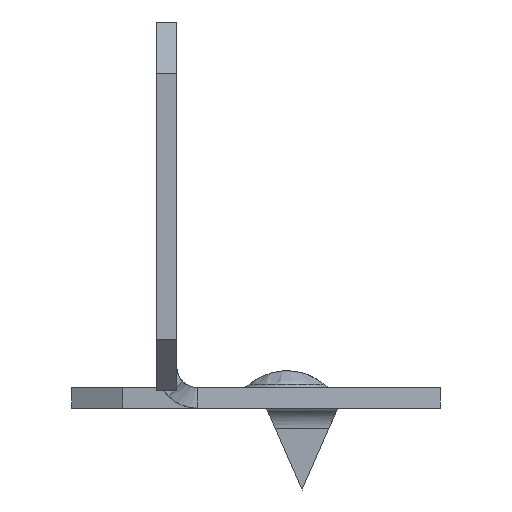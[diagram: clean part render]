
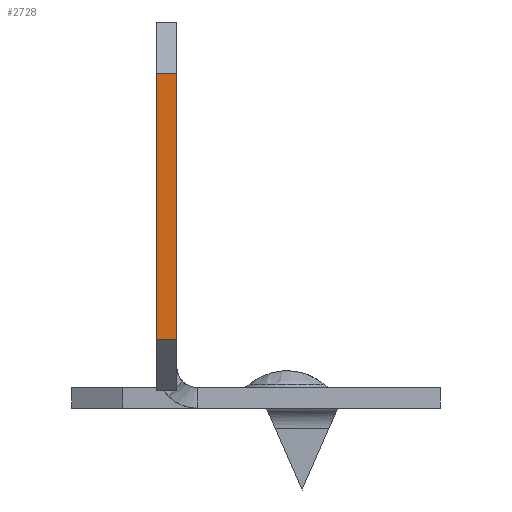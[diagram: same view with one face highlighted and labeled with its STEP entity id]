
A CAD part, front view. The second image highlights one B-rep face of the part: STEP entity #2728.
In plain terms, the highlighted planar face has unit normal (0, -1, 0).
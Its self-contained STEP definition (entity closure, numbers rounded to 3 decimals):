
#2 = PLANE ( 'NONE',  #575 ) ;
#60 = CARTESIAN_POINT ( 'NONE',  ( -7.738, -85., 17.869 ) ) ;
#135 = VECTOR ( 'NONE', #2037, 1000. ) ;
#137 = VERTEX_POINT ( 'NONE', #60 ) ;
#415 = CARTESIAN_POINT ( 'NONE',  ( -7.738, -85., -16.656 ) ) ;
#423 = CARTESIAN_POINT ( 'NONE',  ( -9.738, -85., -8.131 ) ) ;
#499 = CARTESIAN_POINT ( 'NONE',  ( -9.738, -85., -8.131 ) ) ;
#575 = AXIS2_PLACEMENT_3D ( 'NONE', #1599, #2935, #1102 ) ;
#672 = CARTESIAN_POINT ( 'NONE',  ( -9.738, -85., -13.131 ) ) ;
#997 = EDGE_CURVE ( 'NONE', #137, #1461, #2375, .T. ) ;
#1102 = DIRECTION ( 'NONE',  ( 0., 0., -1. ) ) ;
#1283 = VERTEX_POINT ( 'NONE', #499 ) ;
#1328 = ORIENTED_EDGE ( 'NONE', *, *, #1833, .T. ) ;
#1380 = FACE_OUTER_BOUND ( 'NONE', #2247, .T. ) ;
#1461 = VERTEX_POINT ( 'NONE', #2788 ) ;
#1599 = CARTESIAN_POINT ( 'NONE',  ( -9.738, -85., -13.131 ) ) ;
#1616 = VECTOR ( 'NONE', #2697, 1000. ) ;
#1686 = EDGE_CURVE ( 'NONE', #1283, #2428, #2075, .T. ) ;
#1833 = EDGE_CURVE ( 'NONE', #1461, #1283, #2010, .T. ) ;
#1911 = VECTOR ( 'NONE', #2021, 1000. ) ;
#1926 = CARTESIAN_POINT ( 'NONE',  ( -7.738, -85., -8.131 ) ) ;
#2010 = LINE ( 'NONE', #672, #2278 ) ;
#2021 = DIRECTION ( 'NONE',  ( 0., 0., -1. ) ) ;
#2037 = DIRECTION ( 'NONE',  ( -1., 0., 0. ) ) ;
#2059 = ORIENTED_EDGE ( 'NONE', *, *, #1686, .T. ) ;
#2075 = LINE ( 'NONE', #423, #1616 ) ;
#2247 = EDGE_LOOP ( 'NONE', ( #2653, #1328, #2059, #2938 ) ) ;
#2278 = VECTOR ( 'NONE', #2951, 1000. ) ;
#2375 = LINE ( 'NONE', #2906, #135 ) ;
#2428 = VERTEX_POINT ( 'NONE', #1926 ) ;
#2653 = ORIENTED_EDGE ( 'NONE', *, *, #997, .T. ) ;
#2685 = EDGE_CURVE ( 'NONE', #137, #2428, #2714, .T. ) ;
#2697 = DIRECTION ( 'NONE',  ( 1., 0., 0. ) ) ;
#2714 = LINE ( 'NONE', #415, #1911 ) ;
#2728 = ADVANCED_FACE ( 'NONE', ( #1380 ), #2, .T. ) ;
#2788 = CARTESIAN_POINT ( 'NONE',  ( -9.738, -85., 17.869 ) ) ;
#2906 = CARTESIAN_POINT ( 'NONE',  ( -9.738, -85., 17.869 ) ) ;
#2935 = DIRECTION ( 'NONE',  ( 0., -1., 0. ) ) ;
#2938 = ORIENTED_EDGE ( 'NONE', *, *, #2685, .F. ) ;
#2951 = DIRECTION ( 'NONE',  ( 0., 0., -1. ) ) ;
